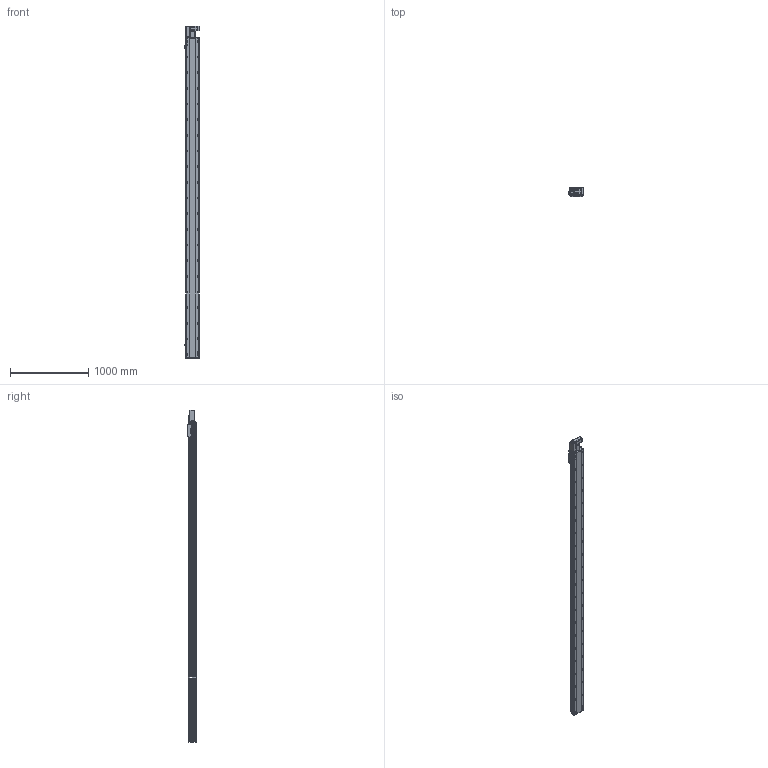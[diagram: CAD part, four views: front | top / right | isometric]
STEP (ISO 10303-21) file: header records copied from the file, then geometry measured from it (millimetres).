
FILE_DESCRIPTION (( 'STEP AP214' ), '1' );
FILE_NAME ('RTB17S-XX-3800-L-M40-C4.STEP', '2025-12-11T06:11:02', ( '' ), ( '' ), 'SwSTEP 2.0', 'SolidWorks 2018', '' );
FILE_SCHEMA (( 'AUTOMOTIVE_DESIGN' ));
Length unit declared in the file: millimetre
Products named in the file (14): RTB17S-L-001耜醱啣^RTB17S-XX-XX-L-M40-C4; OMRON EE-SX672 传感器^RTB17S-XX-XX-L-M40-C4; RTB17S-L-004佪裝蹟譫蟀諉釱^RTB17S-XX-XX-L-M40-C4; RTB14-L-018P^RTB17S-L-々湍釱蚾饜-400W_RTB17S-XX-XX-L-M40-C4; RTB14-L-005P--轴承塑胶压盖^RTB17S-L-皮带座装配-400W_RTB17S-XX-XX-L-M40-C4; RTB14-L-017P^RTB17S-L-々湍釱蚾饜-400W_RTB17S-XX-XX-L-M40-C4; RMP17S-L-014-T20--々湍釱^RTB17S-L-々湍釱蚾饜-400W_RTB17S-XX-XX-L-M40-C4; RTB17S-XX-3800-L-M40-C4; RTH13-BL-012覜茼え俋离^RTB17S-XX-XX-L-M40-C4; RTB14-L-008-M20--萇儂啣^RTB17S-L-々湍釱蚾饜-400W_RTB17S-XX-XX-L-M40-C4; 400W侜督萇儂^RTB17S-XX-XX-L-M40-C4; RTB17S-L-々湍釱蚾饜-400W^RTB17S-XX-XX-L-M40-C4; RTB17S-L-007奻裔^RTB17S-XX-XX-L-M40-C4; RTB17-R-011菁釱^RTB17S-XX-XX-L-M40-C4
Assembly tree (16 placements, depth 3):
  RTB17S-XX-3800-L-M40-C4
    RTB17-R-011菁釱^RTB17S-XX-XX-L-M40-C4
    RTB17S-L-007奻裔^RTB17S-XX-XX-L-M40-C4
    OMRON EE-SX672 传感器^RTB17S-XX-XX-L-M40-C4  x3
    RTB17S-L-001耜醱啣^RTB17S-XX-XX-L-M40-C4
    400W侜督萇儂^RTB17S-XX-XX-L-M40-C4
    RTB17S-L-004佪裝蹟譫蟀諉釱^RTB17S-XX-XX-L-M40-C4
    RTH13-BL-012覜茼え俋离^RTB17S-XX-XX-L-M40-C4
    RTB17S-L-々湍釱蚾饜-400W^RTB17S-XX-XX-L-M40-C4
      RMP17S-L-014-T20--々湍釱^RTB17S-L-々湍釱蚾饜-400W_RTB17S-XX-XX-L-M40-C4
      RTB14-L-005P--轴承塑胶压盖^RTB17S-L-皮带座装配-400W_RTB17S-XX-XX-L-M40-C4
      RTB14-L-008-M20--萇儂啣^RTB17S-L-々湍釱蚾饜-400W_RTB17S-XX-XX-L-M40-C4
      RTB14-L-017P^RTB17S-L-々湍釱蚾饜-400W_RTB17S-XX-XX-L-M40-C4  x2
      RTB14-L-018P^RTB17S-L-々湍釱蚾饜-400W_RTB17S-XX-XX-L-M40-C4
Bounding box: 186 x 108 x 4241 mm (x, y, z)
Volume: 35210719.4 mm3; surface area: 3987181.4 mm2
Topology: 15 solids, 15 shells, 2429 faces, 6843 edges, 4473 vertices
Faces by surface type: plane 1096, cylinder 885, bspline 301, cone 139, torus 8
Entity records: 73385 total; most frequent: CARTESIAN_POINT 21048, ORIENTED_EDGE 10530, DIRECTION 9656, EDGE_CURVE 5265, VERTEX_POINT 3461, AXIS2_PLACEMENT_3D 3391, VECTOR 2874, LINE 2874
